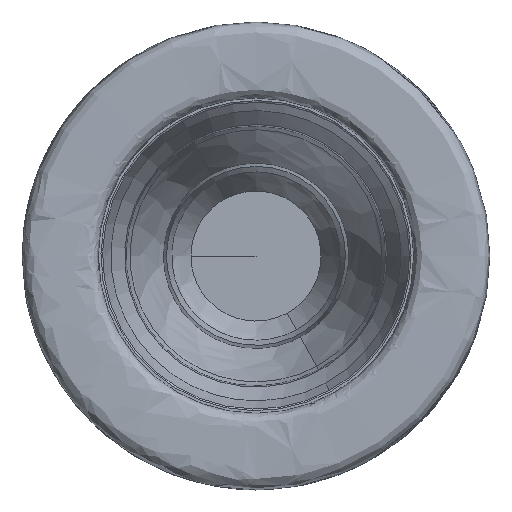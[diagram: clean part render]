
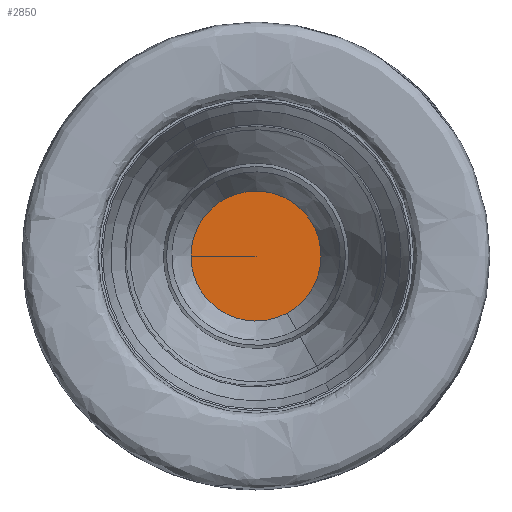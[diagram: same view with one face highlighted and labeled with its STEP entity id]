
A CAD part, top view. The second image highlights one B-rep face of the part: STEP entity #2850.
In plain terms, the highlighted planar face has unit normal (0, 0, 1).
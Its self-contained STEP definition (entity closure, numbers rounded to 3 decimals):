
#304=B_SPLINE_CURVE_WITH_KNOTS('',3,(#4157,#4158,#4159,#4160,#4161,#4162,
#4163,#4164,#4165,#4166,#4167,#4168,#4169,#4170,#4171,#4172),
 .UNSPECIFIED.,.F.,.F.,(4,2,2,2,2,2,2,4),(-6.13,-5.675,
-5.246,-4.526,-3.781,-3.007,
-2.236,-2.09),.UNSPECIFIED.);
#305=B_SPLINE_CURVE_WITH_KNOTS('',3,(#4174,#4175,#4176,#4177,#4178,#4179,
#4180,#4181,#4182,#4183,#4184,#4185,#4186,#4187,#4188,#4189,#4190,#4191,
#4192,#4193),.UNSPECIFIED.,.F.,.F.,(4,2,2,2,2,2,2,2,2,4),(-6.13,
-5.675,-5.246,-4.526,-3.781,
-3.007,-2.236,-1.515,-0.772,
0.),.UNSPECIFIED.);
#306=B_SPLINE_CURVE_WITH_KNOTS('',3,(#4194,#4195,#4196,#4197,#4198,#4199,
#4200,#4201),.UNSPECIFIED.,.F.,.F.,(4,2,2,4),(-2.09,-1.515,
-0.772,0.),.UNSPECIFIED.);
#415=FACE_OUTER_BOUND('',#583,.T.);
#583=EDGE_LOOP('',(#1880,#1881,#1882,#1883,#1884));
#773=LINE('',#4133,#937);
#776=LINE('',#4202,#940);
#937=VECTOR('',#3342,10.);
#940=VECTOR('',#3371,10.);
#1095=VERTEX_POINT('',#4099);
#1105=VERTEX_POINT('',#4131);
#1113=VERTEX_POINT('',#4156);
#1114=VERTEX_POINT('',#4173);
#1408=EDGE_CURVE('',#1095,#1105,#773,.T.);
#1422=EDGE_CURVE('',#1113,#1095,#304,.T.);
#1423=EDGE_CURVE('',#1114,#1113,#305,.T.);
#1424=EDGE_CURVE('',#1095,#1114,#306,.T.);
#1425=EDGE_CURVE('',#1095,#1105,#776,.T.);
#1880=ORIENTED_EDGE('',*,*,#1422,.F.);
#1881=ORIENTED_EDGE('',*,*,#1423,.F.);
#1882=ORIENTED_EDGE('',*,*,#1424,.F.);
#1883=ORIENTED_EDGE('',*,*,#1408,.T.);
#1884=ORIENTED_EDGE('',*,*,#1425,.F.);
#2765=PLANE('',#3040);
#2850=ADVANCED_FACE('',(#415),#2765,.T.);
#3040=AXIS2_PLACEMENT_3D('',#4155,#3369,#3370);
#3342=DIRECTION('',(1.,0.,0.));
#3369=DIRECTION('center_axis',(0.,0.,
1.));
#3370=DIRECTION('ref_axis',(1.,0.,0.));
#3371=DIRECTION('',(1.,0.,0.));
#4099=CARTESIAN_POINT('',(-149.585,2449.599,12.7));
#4131=CARTESIAN_POINT('',(-130.126,2449.599,12.7));
#4133=CARTESIAN_POINT('',(-130.126,2449.599,12.7));
#4155=CARTESIAN_POINT('Origin',(-151.626,2449.599,12.7));
#4156=CARTESIAN_POINT('',(-120.796,2432.522,12.7));
#4157=CARTESIAN_POINT('Ctrl Pts',(-120.796,2432.522,12.7));
#4158=CARTESIAN_POINT('Ctrl Pts',(-122.128,2431.794,12.7));
#4159=CARTESIAN_POINT('Ctrl Pts',(-123.54,2431.225,12.7));
#4160=CARTESIAN_POINT('Ctrl Pts',(-126.383,2430.45,12.7));
#4161=CARTESIAN_POINT('Ctrl Pts',(-127.799,2430.227,12.7));
#4162=CARTESIAN_POINT('Ctrl Pts',(-131.624,2430.05,12.7));
#4163=CARTESIAN_POINT('Ctrl Pts',(-134.022,2430.383,12.7));
#4164=CARTESIAN_POINT('Ctrl Pts',(-138.653,2431.932,12.7));
#4165=CARTESIAN_POINT('Ctrl Pts',(-140.836,2433.163,12.7));
#4166=CARTESIAN_POINT('Ctrl Pts',(-144.694,2436.443,12.7));
#4167=CARTESIAN_POINT('Ctrl Pts',(-146.309,2438.489,12.7));
#4168=CARTESIAN_POINT('Ctrl Pts',(-148.642,2443.083,12.7));
#4169=CARTESIAN_POINT('Ctrl Pts',(-149.34,2445.585,12.7));
#4170=CARTESIAN_POINT('Ctrl Pts',(-149.567,2448.632,12.7));
#4171=CARTESIAN_POINT('Ctrl Pts',(-149.585,2449.116,12.7));
#4172=CARTESIAN_POINT('Ctrl Pts',(-149.585,2449.599,12.7));
#4173=CARTESIAN_POINT('',(-139.455,2466.677,12.7));
#4174=CARTESIAN_POINT('Ctrl Pts',(-139.455,2466.677,12.7));
#4175=CARTESIAN_POINT('Ctrl Pts',(-138.124,2467.404,12.7));
#4176=CARTESIAN_POINT('Ctrl Pts',(-136.711,2467.973,12.7));
#4177=CARTESIAN_POINT('Ctrl Pts',(-133.869,2468.749,12.7));
#4178=CARTESIAN_POINT('Ctrl Pts',(-132.453,2468.972,12.7));
#4179=CARTESIAN_POINT('Ctrl Pts',(-128.628,2469.149,12.7));
#4180=CARTESIAN_POINT('Ctrl Pts',(-126.23,2468.815,12.7));
#4181=CARTESIAN_POINT('Ctrl Pts',(-121.599,2467.266,12.7));
#4182=CARTESIAN_POINT('Ctrl Pts',(-119.416,2466.035,12.7));
#4183=CARTESIAN_POINT('Ctrl Pts',(-115.557,2462.756,12.7));
#4184=CARTESIAN_POINT('Ctrl Pts',(-113.943,2460.71,12.7));
#4185=CARTESIAN_POINT('Ctrl Pts',(-111.61,2456.115,12.7));
#4186=CARTESIAN_POINT('Ctrl Pts',(-110.912,2453.614,12.7));
#4187=CARTESIAN_POINT('Ctrl Pts',(-110.541,2448.653,12.7));
#4188=CARTESIAN_POINT('Ctrl Pts',(-110.808,2446.245,12.7));
#4189=CARTESIAN_POINT('Ctrl Pts',(-112.225,2441.576,12.7));
#4190=CARTESIAN_POINT('Ctrl Pts',(-113.39,2439.366,12.7));
#4191=CARTESIAN_POINT('Ctrl Pts',(-116.547,2435.425,12.7));
#4192=CARTESIAN_POINT('Ctrl Pts',(-118.538,2433.756,12.7));
#4193=CARTESIAN_POINT('Ctrl Pts',(-120.796,2432.522,12.7));
#4194=CARTESIAN_POINT('Ctrl Pts',(-149.585,2449.599,12.7));
#4195=CARTESIAN_POINT('Ctrl Pts',(-149.585,2451.512,12.7));
#4196=CARTESIAN_POINT('Ctrl Pts',(-149.303,2453.417,12.7));
#4197=CARTESIAN_POINT('Ctrl Pts',(-148.027,2457.622,12.7));
#4198=CARTESIAN_POINT('Ctrl Pts',(-146.861,2459.833,12.7));
#4199=CARTESIAN_POINT('Ctrl Pts',(-143.704,2463.774,12.7));
#4200=CARTESIAN_POINT('Ctrl Pts',(-141.713,2465.443,12.7));
#4201=CARTESIAN_POINT('Ctrl Pts',(-139.455,2466.677,12.7));
#4202=CARTESIAN_POINT('',(-130.126,2449.599,12.7));
